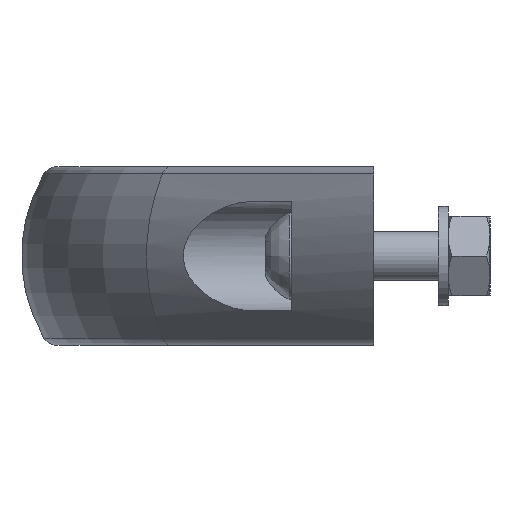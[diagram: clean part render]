
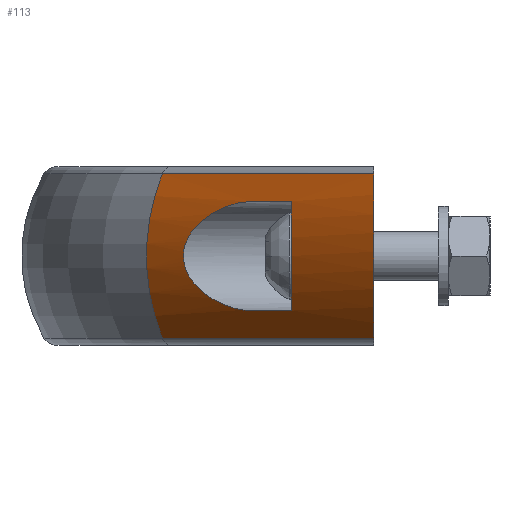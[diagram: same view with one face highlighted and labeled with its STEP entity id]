
A CAD part, left-side view. The second image highlights one B-rep face of the part: STEP entity #113.
In plain terms, the highlighted cylindrical face has radius 32.5 mm (diameter 65 mm), a partial arc.
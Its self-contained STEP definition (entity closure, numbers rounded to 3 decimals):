
#113 = ADVANCED_FACE( '', ( #289, #290 ), #291, .T. );
#289 = FACE_OUTER_BOUND( '', #607, .T. );
#290 = FACE_BOUND( '', #608, .T. );
#291 = CYLINDRICAL_SURFACE( '', #609, 32.5 );
#607 = EDGE_LOOP( '', ( #1100, #1101, #1102, #1103 ) );
#608 = EDGE_LOOP( '', ( #1104, #1105, #1106, #1107 ) );
#609 = AXIS2_PLACEMENT_3D( '', #1108, #1109, #1110 );
#1100 = ORIENTED_EDGE( '', *, *, #1810, .F. );
#1101 = ORIENTED_EDGE( '', *, *, #1811, .T. );
#1102 = ORIENTED_EDGE( '', *, *, #1812, .F. );
#1103 = ORIENTED_EDGE( '', *, *, #1807, .F. );
#1104 = ORIENTED_EDGE( '', *, *, #1813, .F. );
#1105 = ORIENTED_EDGE( '', *, *, #1814, .F. );
#1106 = ORIENTED_EDGE( '', *, *, #1815, .F. );
#1107 = ORIENTED_EDGE( '', *, *, #1816, .F. );
#1108 = CARTESIAN_POINT( '', ( -364.656, -83.236, 0. ) );
#1109 = DIRECTION( '', ( -0.707, -0.707, 0. ) );
#1110 = DIRECTION( '', ( -0.707, 0.707, 0. ) );
#1807 = EDGE_CURVE( '', #2139, #2142, #2143, .T. );
#1810 = EDGE_CURVE( '', #2147, #2139, #2148, .T. );
#1811 = EDGE_CURVE( '', #2147, #2149, #2150, .T. );
#1812 = EDGE_CURVE( '', #2142, #2149, #2151, .T. );
#1813 = EDGE_CURVE( '', #2152, #2153, #2154, .F. );
#1814 = EDGE_CURVE( '', #2155, #2152, #2156, .T. );
#1815 = EDGE_CURVE( '', #2157, #2155, #2158, .T. );
#1816 = EDGE_CURVE( '', #2153, #2157, #2159, .T. );
#2139 = VERTEX_POINT( '', #2860 );
#2142 = VERTEX_POINT( '', #2863 );
#2143 = LINE( '', #2864, #2865 );
#2147 = VERTEX_POINT( '', #2870 );
#2148 = ELLIPSE( '', #2871, 45.962, 32.5 );
#2149 = VERTEX_POINT( '', #2872 );
#2150 = LINE( '', #2873, #2874 );
#2151 = CIRCLE( '', #2875, 32.5 );
#2152 = VERTEX_POINT( '', #2876 );
#2153 = VERTEX_POINT( '', #2877 );
#2154 = LINE( '', #2878, #2879 );
#2155 = VERTEX_POINT( '', #2880 );
#2156 = B_SPLINE_CURVE_WITH_KNOTS( '', 3, ( #2881, #2882, #2883, #2884, #2885, #2886, #2887, #2888, #2889, #2890, #2891, #2892, #2893, #2894, #2895, #2896, #2897, #2898, #2899, #2900, #2901, #2902, #2903, #2904, #2905, #2906, #2907, #2908, #2909, #2910, #2911, #2912, #2913, #2914, #2915, #2916, #2917, #2918, #2919, #2920, #2921, #2922, #2923, #2924, #2925, #2926, #2927, #2928, #2929, #2930, #2931, #2932, #2933, #2934 ), .UNSPECIFIED., .F., .F., ( 4, 2, 2, 2, 2, 2, 2, 2, 2, 2, 2, 2, 2, 2, 2, 2, 2, 2, 2, 2, 2, 2, 2, 2, 2, 2, 4 ), ( 0.017, 0.019, 0.022, 0.025, 0.028, 0.031, 0.032, 0.034, 0.034, 0.035, 0.036, 0.037, 0.038, 0.039, 0.04, 0.041, 0.041, 0.042, 0.043, 0.045, 0.048, 0.05, 0.053, 0.056, 0.057, 0.059, 0.062 ), .UNSPECIFIED. );
#2157 = VERTEX_POINT( '', #2935 );
#2158 = LINE( '', #2936, #2937 );
#2159 = ELLIPSE( '', #2938, 45.962, 32.5 );
#2860 = CARTESIAN_POINT( '', ( -320.997, 0., -16.525 ) );
#2863 = CARTESIAN_POINT( '', ( -278.379, 42.619, -16.525 ) );
#2864 = CARTESIAN_POINT( '', ( -384.445, -63.447, -16.525 ) );
#2865 = VECTOR( '', #3380, 1000. );
#2870 = CARTESIAN_POINT( '', ( -320.997, 0., 16.525 ) );
#2871 = AXIS2_PLACEMENT_3D( '', #3385, #3386, #3387 );
#2872 = CARTESIAN_POINT( '', ( -278.379, 42.619, 16.525 ) );
#2873 = CARTESIAN_POINT( '', ( -384.445, -63.447, 16.525 ) );
#2874 = VECTOR( '', #3388, 1000. );
#2875 = AXIS2_PLACEMENT_3D( '', #3389, #3390, #3391 );
#2876 = CARTESIAN_POINT( '', ( -300., 24.67, -11. ) );
#2877 = CARTESIAN_POINT( '', ( -308.07, 16.6, -11. ) );
#2878 = CARTESIAN_POINT( '', ( -386.281, -61.611, -11. ) );
#2879 = VECTOR( '', #3392, 1000. );
#2880 = CARTESIAN_POINT( '', ( -300., 24.67, 11. ) );
#2881 = CARTESIAN_POINT( '', ( -300., 24.67, 11. ) );
#2882 = CARTESIAN_POINT( '', ( -299.332, 25.337, 11. ) );
#2883 = CARTESIAN_POINT( '', ( -298.687, 26.014, 10.94 ) );
#2884 = CARTESIAN_POINT( '', ( -297.433, 27.38, 10.715 ) );
#2885 = CARTESIAN_POINT( '', ( -296.825, 28.069, 10.551 ) );
#2886 = CARTESIAN_POINT( '', ( -295.641, 29.458, 10.119 ) );
#2887 = CARTESIAN_POINT( '', ( -295.062, 30.161, 9.85 ) );
#2888 = CARTESIAN_POINT( '', ( -293.959, 31.54, 9.215 ) );
#2889 = CARTESIAN_POINT( '', ( -293.433, 32.218, 8.849 ) );
#2890 = CARTESIAN_POINT( '', ( -292.429, 33.54, 8.007 ) );
#2891 = CARTESIAN_POINT( '', ( -291.952, 34.185, 7.532 ) );
#2892 = CARTESIAN_POINT( '', ( -291.278, 35.115, 6.712 ) );
#2893 = CARTESIAN_POINT( '', ( -291.059, 35.42, 6.419 ) );
#2894 = CARTESIAN_POINT( '', ( -290.644, 36.004, 5.796 ) );
#2895 = CARTESIAN_POINT( '', ( -290.447, 36.283, 5.468 ) );
#2896 = CARTESIAN_POINT( '', ( -290.172, 36.675, 4.945 ) );
#2897 = CARTESIAN_POINT( '', ( -290.084, 36.802, 4.766 ) );
#2898 = CARTESIAN_POINT( '', ( -289.914, 37.046, 4.396 ) );
#2899 = CARTESIAN_POINT( '', ( -289.833, 37.164, 4.204 ) );
#2900 = CARTESIAN_POINT( '', ( -289.603, 37.497, 3.618 ) );
#2901 = CARTESIAN_POINT( '', ( -289.47, 37.692, 3.211 ) );
#2902 = CARTESIAN_POINT( '', ( -289.303, 37.937, 2.572 ) );
#2903 = CARTESIAN_POINT( '', ( -289.253, 38.01, 2.354 ) );
#2904 = CARTESIAN_POINT( '', ( -289.164, 38.14, 1.909 ) );
#2905 = CARTESIAN_POINT( '', ( -289.126, 38.196, 1.679 ) );
#2906 = CARTESIAN_POINT( '', ( -289.034, 38.332, 0.981 ) );
#2907 = CARTESIAN_POINT( '', ( -289.002, 38.38, 0.512 ) );
#2908 = CARTESIAN_POINT( '', ( -288.999, 38.383, -0.2 ) );
#2909 = CARTESIAN_POINT( '', ( -289.006, 38.373, -0.439 ) );
#2910 = CARTESIAN_POINT( '', ( -289.035, 38.33, -0.914 ) );
#2911 = CARTESIAN_POINT( '', ( -289.058, 38.297, -1.148 ) );
#2912 = CARTESIAN_POINT( '', ( -289.116, 38.211, -1.61 ) );
#2913 = CARTESIAN_POINT( '', ( -289.152, 38.158, -1.838 ) );
#2914 = CARTESIAN_POINT( '', ( -289.238, 38.031, -2.288 ) );
#2915 = CARTESIAN_POINT( '', ( -289.288, 37.958, -2.51 ) );
#2916 = CARTESIAN_POINT( '', ( -289.455, 37.714, -3.162 ) );
#2917 = CARTESIAN_POINT( '', ( -289.588, 37.519, -3.572 ) );
#2918 = CARTESIAN_POINT( '', ( -289.889, 37.082, -4.353 ) );
#2919 = CARTESIAN_POINT( '', ( -290.058, 36.839, -4.724 ) );
#2920 = CARTESIAN_POINT( '', ( -290.609, 36.051, -5.783 ) );
#2921 = CARTESIAN_POINT( '', ( -291.022, 35.468, -6.396 ) );
#2922 = CARTESIAN_POINT( '', ( -291.919, 34.23, -7.497 ) );
#2923 = CARTESIAN_POINT( '', ( -292.407, 33.57, -7.987 ) );
#2924 = CARTESIAN_POINT( '', ( -293.422, 32.231, -8.841 ) );
#2925 = CARTESIAN_POINT( '', ( -293.951, 31.55, -9.209 ) );
#2926 = CARTESIAN_POINT( '', ( -295.052, 30.173, -9.845 ) );
#2927 = CARTESIAN_POINT( '', ( -295.624, 29.478, -10.112 ) );
#2928 = CARTESIAN_POINT( '', ( -296.52, 28.427, -10.44 ) );
#2929 = CARTESIAN_POINT( '', ( -296.824, 28.076, -10.536 ) );
#2930 = CARTESIAN_POINT( '', ( -297.439, 27.38, -10.702 ) );
#2931 = CARTESIAN_POINT( '', ( -297.749, 27.035, -10.772 ) );
#2932 = CARTESIAN_POINT( '', ( -298.693, 26.007, -10.941 ) );
#2933 = CARTESIAN_POINT( '', ( -299.338, 25.332, -11. ) );
#2934 = CARTESIAN_POINT( '', ( -300., 24.67, -11. ) );
#2935 = CARTESIAN_POINT( '', ( -308.07, 16.6, 11. ) );
#2936 = CARTESIAN_POINT( '', ( -386.281, -61.611, 11. ) );
#2937 = VECTOR( '', #3393, 1000. );
#2938 = AXIS2_PLACEMENT_3D( '', #3394, #3395, #3396 );
#3380 = DIRECTION( '', ( 0.707, 0.707, 0. ) );
#3385 = CARTESIAN_POINT( '', ( -281.42, 0., 0. ) );
#3386 = DIRECTION( '', ( 0., -1., 0. ) );
#3387 = DIRECTION( '', ( 1., 0., 0. ) );
#3388 = DIRECTION( '', ( 0.707, 0.707, 0. ) );
#3389 = CARTESIAN_POINT( '', ( -258.59, 22.83, 0. ) );
#3390 = DIRECTION( '', ( 0.707, 0.707, 0. ) );
#3391 = DIRECTION( '', ( 0., 0., -1. ) );
#3392 = DIRECTION( '', ( 0.707, 0.707, 0. ) );
#3393 = DIRECTION( '', ( 0.707, 0.707, 0. ) );
#3394 = CARTESIAN_POINT( '', ( -264.82, 16.6, 0. ) );
#3395 = DIRECTION( '', ( 0., 1., 0. ) );
#3396 = DIRECTION( '', ( 1., 0., 0. ) );
